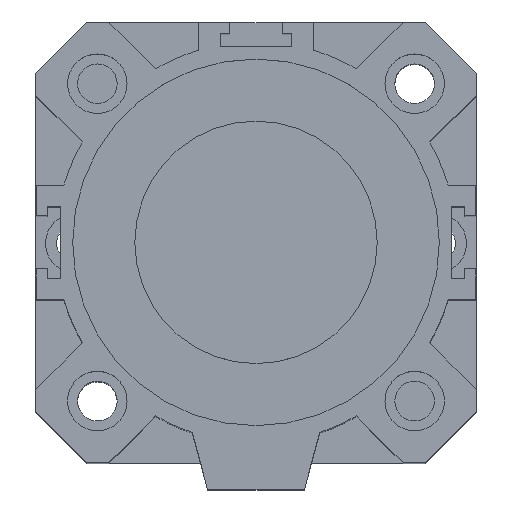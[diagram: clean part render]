
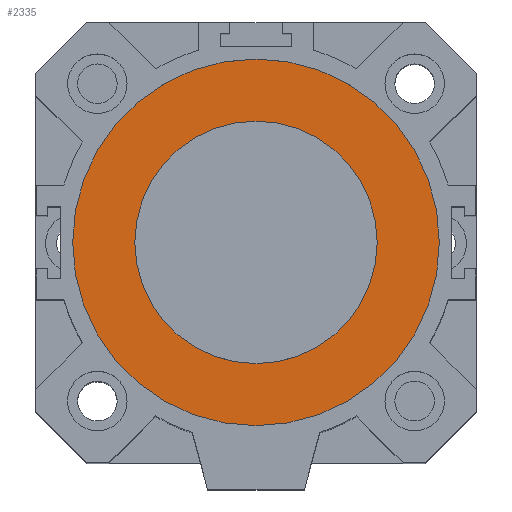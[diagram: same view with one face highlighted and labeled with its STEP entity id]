
A CAD part, top view. The second image highlights one B-rep face of the part: STEP entity #2335.
In plain terms, the highlighted planar face has unit normal (0, 0, 1).
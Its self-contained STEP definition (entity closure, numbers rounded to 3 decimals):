
#449=PLANE('',#2486);
#547=FACE_BOUND('',#766,.T.);
#548=FACE_BOUND('',#767,.T.);
#766=EDGE_LOOP('',(#1592));
#767=EDGE_LOOP('',(#1593));
#977=CIRCLE('',#2481,27.5);
#979=CIRCLE('',#2484,41.6);
#1065=VERTEX_POINT('',#3388);
#1067=VERTEX_POINT('',#3393);
#1287=EDGE_CURVE('',#1065,#1065,#977,.T.);
#1289=EDGE_CURVE('',#1067,#1067,#979,.T.);
#1592=ORIENTED_EDGE('',*,*,#1287,.F.);
#1593=ORIENTED_EDGE('',*,*,#1289,.F.);
#2335=ADVANCED_FACE('',(#547,#548),#449,.T.);
#2481=AXIS2_PLACEMENT_3D('',#3389,#2720,#2721);
#2484=AXIS2_PLACEMENT_3D('',#3394,#2726,#2727);
#2486=AXIS2_PLACEMENT_3D('',#3397,#2730,#2731);
#2720=DIRECTION('center_axis',(0.,0.,1.));
#2721=DIRECTION('ref_axis',(-1.,0.,0.));
#2726=DIRECTION('center_axis',(0.,0.,-1.));
#2727=DIRECTION('ref_axis',(-1.,0.,0.));
#2730=DIRECTION('center_axis',(0.,0.,1.));
#2731=DIRECTION('ref_axis',(1.,0.,0.));
#3388=CARTESIAN_POINT('',(27.5,0.,52.));
#3389=CARTESIAN_POINT('Origin',(0.,0.,52.));
#3393=CARTESIAN_POINT('',(41.6,0.,52.));
#3394=CARTESIAN_POINT('Origin',(0.,0.,52.));
#3397=CARTESIAN_POINT('Origin',(0.,0.,
52.));
